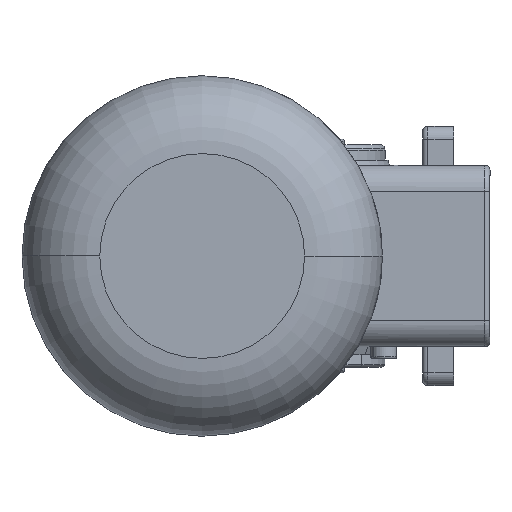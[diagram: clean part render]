
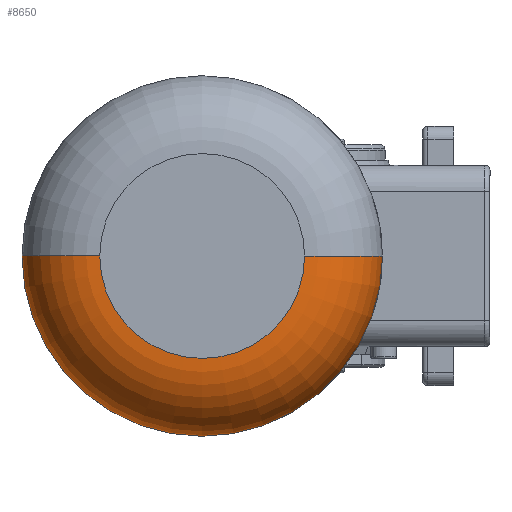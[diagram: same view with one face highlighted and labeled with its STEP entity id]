
A CAD part, left-side view. The second image highlights one B-rep face of the part: STEP entity #8650.
In plain terms, the highlighted toroidal (fillet/blend) face has major radius 39.5 mm and minor radius 30 mm.
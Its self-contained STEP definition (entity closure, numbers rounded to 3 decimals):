
#160 = CARTESIAN_POINT ( 'NONE',  ( -329.464, 90.584, 0. ) ) ;
#333 = ORIENTED_EDGE ( 'NONE', *, *, #14604, .T. ) ;
#915 = DIRECTION ( 'NONE',  ( 1., 0., 0. ) ) ;
#1340 = EDGE_CURVE ( 'NONE', #3460, #10061, #5738, .T. ) ;
#2319 = CARTESIAN_POINT ( 'NONE',  ( -359.464, 11.584, 0. ) ) ;
#2414 = EDGE_CURVE ( 'NONE', #6487, #10770, #7649, .T. ) ;
#2521 = DIRECTION ( 'NONE',  ( 0., 0., 1. ) ) ;
#2730 = CARTESIAN_POINT ( 'NONE',  ( -329.464, 51.084, 0. ) ) ;
#3460 = VERTEX_POINT ( 'NONE', #3745 ) ;
#3745 = CARTESIAN_POINT ( 'NONE',  ( -329.464, -18.416, 0. ) ) ;
#5351 = FACE_OUTER_BOUND ( 'NONE', #6740, .T. ) ;
#5551 = DIRECTION ( 'NONE',  ( -1., 0., 0. ) ) ;
#5625 = TOROIDAL_SURFACE ( 'NONE', #6694, 39.5, 30. ) ;
#5668 = DIRECTION ( 'NONE',  ( 0., -1., 0. ) ) ;
#5738 = CIRCLE ( 'NONE', #6457, 69.5 ) ;
#5774 = CARTESIAN_POINT ( 'NONE',  ( -359.464, 51.084, 0. ) ) ;
#6144 = ORIENTED_EDGE ( 'NONE', *, *, #2414, .F. ) ;
#6457 = AXIS2_PLACEMENT_3D ( 'NONE', #2730, #915, #20013 ) ;
#6487 = VERTEX_POINT ( 'NONE', #11422 ) ;
#6694 = AXIS2_PLACEMENT_3D ( 'NONE', #19566, #21132, #11130 ) ;
#6740 = EDGE_LOOP ( 'NONE', ( #6144, #333, #13109, #10285 ) ) ;
#7649 = CIRCLE ( 'NONE', #19267, 39.5 ) ;
#8650 = ADVANCED_FACE ( 'NONE', ( #5351 ), #5625, .T. ) ;
#9171 = CARTESIAN_POINT ( 'NONE',  ( -329.464, 11.584, 0. ) ) ;
#10061 = VERTEX_POINT ( 'NONE', #19603 ) ;
#10285 = ORIENTED_EDGE ( 'NONE', *, *, #11086, .F. ) ;
#10770 = VERTEX_POINT ( 'NONE', #2319 ) ;
#11086 = EDGE_CURVE ( 'NONE', #10770, #3460, #22209, .T. ) ;
#11130 = DIRECTION ( 'NONE',  ( 0., -1., 0. ) ) ;
#11299 = CIRCLE ( 'NONE', #12819, 30. ) ;
#11422 = CARTESIAN_POINT ( 'NONE',  ( -359.464, 90.584, 0. ) ) ;
#11880 = DIRECTION ( 'NONE',  ( 0., 1., 0. ) ) ;
#12218 = DIRECTION ( 'NONE',  ( 0., 0., -1. ) ) ;
#12468 = AXIS2_PLACEMENT_3D ( 'NONE', #9171, #2521, #19692 ) ;
#12819 = AXIS2_PLACEMENT_3D ( 'NONE', #160, #12218, #11880 ) ;
#13109 = ORIENTED_EDGE ( 'NONE', *, *, #1340, .F. ) ;
#14604 = EDGE_CURVE ( 'NONE', #6487, #10061, #11299, .T. ) ;
#19267 = AXIS2_PLACEMENT_3D ( 'NONE', #5774, #5551, #5668 ) ;
#19566 = CARTESIAN_POINT ( 'NONE',  ( -329.464, 51.084, 0. ) ) ;
#19603 = CARTESIAN_POINT ( 'NONE',  ( -329.464, 120.584, 0. ) ) ;
#19692 = DIRECTION ( 'NONE',  ( 0., -1., 0. ) ) ;
#20013 = DIRECTION ( 'NONE',  ( 0., -1., 0. ) ) ;
#21132 = DIRECTION ( 'NONE',  ( 1., 0., 0. ) ) ;
#22209 = CIRCLE ( 'NONE', #12468, 30. ) ;
